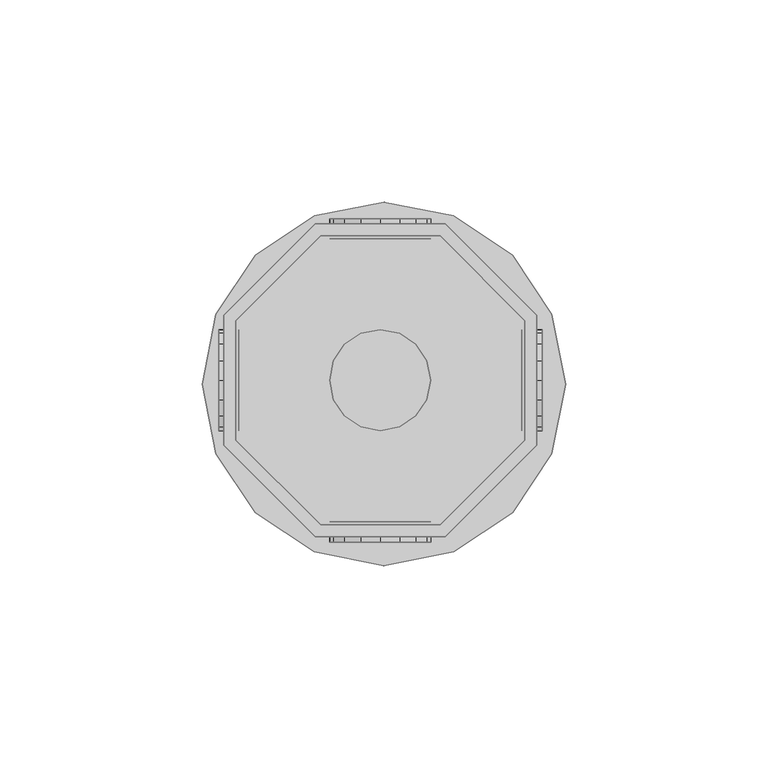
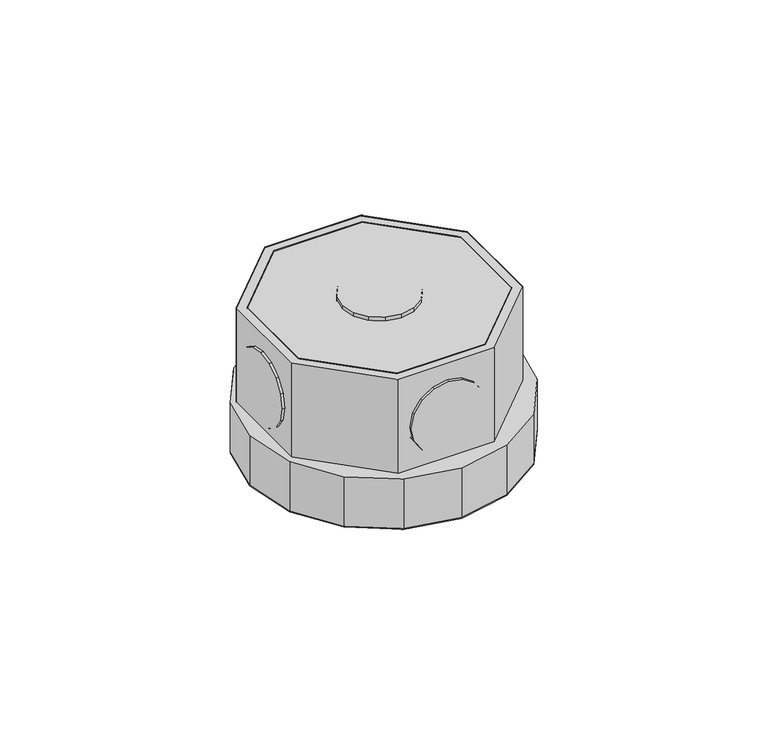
"""IFC4 building model written with IfcOpenShell, lengths in millimetres: light fixture geometry,  213798 :  213798."""

from ifc_helpers import new_model, si_unit, origin, place, context, project, spatial, triangles, source, transform, mapped, element, save


def light_fixture_bd13ce29(model_context):
    return source(origin(), model_context, "Body", "Tessellation", [
        triangles([(13460.0005096, 26822.9999634, 2924.5999741), (13430.3999908, 26822.9999634, 2975.400071), (13430.3999908, 26822.9999634, 2924.5999741), (13460.0005096, 26822.9999634, 2975.400071), (13461.2004364, 26748.4998596, 2924.5999741), (13429.1000702, 26748.4998596, 2975.400071), (13429.1000702, 26748.4998596, 2924.5999741), (13461.2004364, 26748.4998596, 2975.400071), (13409.4001099, 26801.9989197, 2975.400071), (13409.4001099, 26801.9989197, 2924.5999741), (13483.9002136, 26771.2007996, 2924.5999741), (13483.9002136, 26771.2007996, 2975.400071), (13409.4001099, 26772.4007263, 2975.400071), (13409.4001099, 26772.4007263, 2924.5999741), (13483.9002136, 26803.2988403, 2924.5999741), (13483.9002136, 26803.2988403, 2975.400071), (13430.3999908, 26751.4996765, 2975.400071), (13430.3999908, 26751.4996765, 2924.5999741), (13461.2004364, 26825.9997803, 2924.5999741), (13461.2004364, 26825.9997803, 2975.400071), (13460.0005096, 26751.4996765, 2924.5999741), (13460.0005096, 26751.4996765, 2975.400071), (13429.1000702, 26825.9997803, 2975.400071), (13429.1000702, 26825.9997803, 2924.5999741), (13480.9003967, 26772.4007263, 2924.5999741), (13480.9003967, 26772.4007263, 2975.400071), (13406.400293, 26803.2988403, 2975.400071), (13406.400293, 26803.2988403, 2924.5999741), (13406.400293, 26771.2007996, 2975.400071), (13480.9003967, 26801.9989197, 2975.400071), (13480.9003967, 26801.9989197, 2924.5999741), (13406.400293, 26771.2007996, 2924.5999741), (13409.4001099, 26772.4007263, 2972.3999634), (13430.3999908, 26751.4996765, 2972.3999634), (13460.0005096, 26751.4996765, 2972.3999634), (13480.9003967, 26772.4007263, 2972.3999634), (13480.9003967, 26801.9989197, 2972.3999634), (13460.0005096, 26822.9999634, 2972.3999634), (13430.3999908, 26822.9999634, 2972.3999634), (13409.4001099, 26801.9989197, 2972.3999634), (13406.400293, 26803.2988403, 2942.4000504), (13429.1000702, 26825.9997803, 2942.4000504), (13461.2004364, 26825.9997803, 2942.4000504), (13483.9002136, 26803.2988403, 2942.4000504), (13483.9002136, 26771.2007996, 2942.4000504), (13461.2004364, 26748.4998596, 2942.4000504), (13429.1000702, 26748.4998596, 2942.4000504), (13406.400293, 26771.2007996, 2942.4000504), (13428.8000885, 26744.8000854, 2942.4000504), (13404.5004089, 26769.1009277, 2942.4000504), (13414.1998169, 26754.4994934, 2942.4000504), (13401.0994537, 26786.2998779, 2942.4000504), (13404.5004089, 26803.6011475, 2942.4000504), (13414.1998169, 26818.2002563, 2942.4000504), (13428.8000885, 26827.8996643, 2942.4000504), (13446.1001953, 26831.2994568, 2942.4000504), (13463.3003082, 26827.8996643, 2942.4000504), (13487.5999878, 26803.6011475, 2942.4000504), (13477.9005798, 26818.2002563, 2942.4000504), (13446.1001953, 26741.3002991, 2942.4000504), (13463.3003082, 26744.8000854, 2942.4000504), (13477.9005798, 26754.4994934, 2942.4000504), (13487.5999878, 26769.1009277, 2942.4000504), (13491.0997742, 26786.2998779, 2942.4000504), (13404.5004089, 26769.1009277, 2924.5999741), (13428.8000885, 26744.8000854, 2924.5999741), (13414.1998169, 26754.4994934, 2924.5999741), (13401.0994537, 26786.2998779, 2924.5999741), (13404.5004089, 26803.6011475, 2924.5999741), (13414.1998169, 26818.2002563, 2924.5999741), (13428.8000885, 26827.8996643, 2924.5999741), (13446.1001953, 26831.2994568, 2924.5999741), (13463.3003082, 26827.8996643, 2924.5999741), (13487.5999878, 26803.6011475, 2924.5999741), (13477.9005798, 26818.2002563, 2924.5999741), (13446.1001953, 26741.3002991, 2924.5999741), (13463.3003082, 26744.8000854, 2924.5999741), (13477.9005798, 26754.4994934, 2924.5999741), (13487.5999878, 26769.1009277, 2924.5999741), (13491.0997742, 26786.2998779, 2924.5999741), (13433.5997955, 26827.199707, 2952.6000092), (13440.4005432, 26827.199707, 2945.9001274), (13436.2996307, 26827.199707, 2948.5999626), (13432.6998505, 26827.199707, 2957.4000069), (13445.2002502, 26827.199707, 2944.8998978), (13433.5997955, 26827.199707, 2962.2000046), (13449.9999573, 26827.199707, 2945.9001274), (13436.2996307, 26827.199707, 2966.2000511), (13453.9997131, 26827.199707, 2948.5999626), (13440.4005432, 26827.199707, 2968.8998863), (13456.6995483, 26827.199707, 2952.6000092), (13445.2002502, 26827.199707, 2969.900116), (13457.6994873, 26827.199707, 2957.4000069), (13449.9999573, 26827.199707, 2968.8998863), (13456.6995483, 26827.199707, 2962.2000046), (13453.9997131, 26827.199707, 2966.2000511), (13440.4005432, 26822.2000122, 2945.9001274), (13433.5997955, 26822.2000122, 2952.6000092), (13436.2996307, 26822.2000122, 2948.5999626), (13445.2002502, 26822.2000122, 2944.8998978), (13432.6998505, 26822.2000122, 2957.4000069), (13449.9999573, 26822.2000122, 2945.9001274), (13433.5997955, 26822.2000122, 2962.2000046), (13453.9997131, 26822.2000122, 2948.5999626), (13436.2996307, 26822.2000122, 2966.2000511), (13440.4005432, 26822.2000122, 2968.8998863), (13456.6995483, 26822.2000122, 2952.6000092), (13445.2002502, 26822.2000122, 2969.900116), (13457.6994873, 26822.2000122, 2957.4000069), (13449.9999573, 26822.2000122, 2968.8998863), (13456.6995483, 26822.2000122, 2962.2000046), (13453.9997131, 26822.2000122, 2966.2000511), (13433.5997955, 26752.1996338, 2952.6000092), (13440.4005432, 26752.1996338, 2945.9001274), (13436.2996307, 26752.1996338, 2948.5999626), (13432.6998505, 26752.1996338, 2957.4000069), (13445.2002502, 26752.1996338, 2944.8998978), (13433.5997955, 26752.1996338, 2962.2000046), (13449.9999573, 26752.1996338, 2945.9001274), (13436.2996307, 26752.1996338, 2966.2000511), (13453.9997131, 26752.1996338, 2948.5999626), (13440.4005432, 26752.1996338, 2968.8998863), (13456.6995483, 26752.1996338, 2952.6000092), (13445.2002502, 26752.1996338, 2969.900116), (13457.6994873, 26752.1996338, 2957.4000069), (13449.9999573, 26752.1996338, 2968.8998863), (13456.6995483, 26752.1996338, 2962.2000046), (13453.9997131, 26752.1996338, 2966.2000511), (13440.4005432, 26747.199939, 2945.9001274), (13433.5997955, 26747.199939, 2952.6000092), (13436.2996307, 26747.199939, 2948.5999626), (13445.2002502, 26747.199939, 2944.8998978), (13432.6998505, 26747.199939, 2957.4000069), (13449.9999573, 26747.199939, 2945.9001274), (13433.5997955, 26747.199939, 2962.2000046), (13453.9997131, 26747.199939, 2948.5999626), (13436.2996307, 26747.199939, 2966.2000511), (13440.4005432, 26747.199939, 2968.8998863), (13456.6995483, 26747.199939, 2952.6000092), (13445.2002502, 26747.199939, 2969.900116), (13457.6994873, 26747.199939, 2957.4000069), (13449.9999573, 26747.199939, 2968.8998863), (13456.6995483, 26747.199939, 2962.2000046), (13453.9997131, 26747.199939, 2966.2000511), (13410.200061, 26782.400116, 2945.9001274), (13410.200061, 26775.7005249, 2952.6000092), (13410.200061, 26778.4003601, 2948.5999626), (13410.200061, 26787.199823, 2944.8998978), (13410.200061, 26774.7005859, 2957.4000069), (13410.200061, 26791.99953, 2945.9001274), (13410.200061, 26775.7005249, 2962.2000046), (13410.200061, 26796.0992798, 2948.5999626), (13410.200061, 26778.4003601, 2966.2000511), (13410.200061, 26782.400116, 2968.8998863), (13410.200061, 26798.799115, 2952.6000092), (13410.200061, 26787.199823, 2969.900116), (13410.200061, 26799.6990601, 2957.4000069), (13410.200061, 26791.99953, 2968.8998863), (13410.200061, 26798.799115, 2962.2000046), (13410.200061, 26796.0992798, 2966.2000511), (13405.2003662, 26775.7005249, 2952.6000092), (13405.2003662, 26782.400116, 2945.9001274), (13405.2003662, 26778.4003601, 2948.5999626), (13405.2003662, 26774.7005859, 2957.4000069), (13405.2003662, 26787.199823, 2944.8998978), (13405.2003662, 26775.7005249, 2962.2000046), (13405.2003662, 26791.99953, 2945.9001274), (13405.2003662, 26778.4003601, 2966.2000511), (13405.2003662, 26796.0992798, 2948.5999626), (13405.2003662, 26782.400116, 2968.8998863), (13405.2003662, 26798.799115, 2952.6000092), (13405.2003662, 26787.199823, 2969.900116), (13405.2003662, 26799.6990601, 2957.4000069), (13405.2003662, 26791.99953, 2968.8998863), (13405.2003662, 26798.799115, 2962.2000046), (13405.2003662, 26796.0992798, 2966.2000511), (13485.2001343, 26782.400116, 2945.9001274), (13485.2001343, 26775.7005249, 2952.6000092), (13485.2001343, 26778.4003601, 2948.5999626), (13485.2001343, 26787.199823, 2944.8998978), (13485.2001343, 26774.7005859, 2957.4000069), (13485.2001343, 26791.99953, 2945.9001274), (13485.2001343, 26775.7005249, 2962.2000046), (13485.2001343, 26796.0992798, 2948.5999626), (13485.2001343, 26778.4003601, 2966.2000511), (13485.2001343, 26782.400116, 2968.8998863), (13485.2001343, 26798.799115, 2952.6000092), (13485.2001343, 26787.199823, 2969.900116), (13485.2001343, 26799.6990601, 2957.4000069), (13485.2001343, 26791.99953, 2968.8998863), (13485.2001343, 26798.799115, 2962.2000046), (13485.2001343, 26796.0992798, 2966.2000511), (13480.2004395, 26775.7005249, 2952.6000092), (13480.2004395, 26782.400116, 2945.9001274), (13480.2004395, 26778.4003601, 2948.5999626), (13480.2004395, 26774.7005859, 2957.4000069), (13480.2004395, 26787.199823, 2944.8998978), (13480.2004395, 26775.7005249, 2962.2000046), (13480.2004395, 26791.99953, 2945.9001274), (13480.2004395, 26778.4003601, 2966.2000511), (13480.2004395, 26796.0992798, 2948.5999626), (13480.2004395, 26782.400116, 2968.8998863), (13480.2004395, 26798.799115, 2952.6000092), (13480.2004395, 26787.199823, 2969.900116), (13480.2004395, 26799.6990601, 2957.4000069), (13480.2004395, 26791.99953, 2968.8998863), (13480.2004395, 26798.799115, 2962.2000046), (13480.2004395, 26796.0992798, 2966.2000511), (13440.4005432, 26775.7005249, 2976.9999733), (13433.5997955, 26782.400116, 2976.9999733), (13436.2996307, 26778.4003601, 2976.9999733), (13432.6998505, 26787.199823, 2976.9999733), (13445.2002502, 26774.7005859, 2976.9999733), (13433.5997955, 26791.99953, 2976.9999733), (13449.9999573, 26775.7005249, 2976.9999733), (13436.2996307, 26796.0992798, 2976.9999733), (13453.9997131, 26778.4003601, 2976.9999733), (13440.4005432, 26798.799115, 2976.9999733), (13456.6995483, 26782.400116, 2976.9999733), (13445.2002502, 26799.6990601, 2976.9999733), (13457.6994873, 26787.199823, 2976.9999733), (13449.9999573, 26798.799115, 2976.9999733), (13456.6995483, 26791.99953, 2976.9999733), (13453.9997131, 26796.0992798, 2976.9999733), (13433.5997955, 26782.400116, 2971.9999878), (13440.4005432, 26775.7005249, 2971.9999878), (13436.2996307, 26778.4003601, 2971.9999878), (13432.6998505, 26787.199823, 2971.9999878), (13445.2002502, 26774.7005859, 2971.9999878), (13433.5997955, 26791.99953, 2971.9999878), (13449.9999573, 26775.7005249, 2971.9999878), (13436.2996307, 26796.0992798, 2971.9999878), (13453.9997131, 26778.4003601, 2971.9999878), (13440.4005432, 26798.799115, 2971.9999878), (13456.6995483, 26782.400116, 2971.9999878), (13445.2002502, 26799.6990601, 2971.9999878), (13457.6994873, 26787.199823, 2971.9999878), (13449.9999573, 26798.799115, 2971.9999878), (13456.6995483, 26791.99953, 2971.9999878), (13453.9997131, 26796.0992798, 2971.9999878)], [[1, 2, 3], [2, 1, 4], [5, 6, 7], [6, 5, 8], [3, 9, 10], [9, 3, 2], [11, 8, 5], [8, 11, 12], [10, 13, 14], [13, 10, 9], [15, 12, 11], [12, 15, 16], [14, 17, 18], [17, 14, 13], [19, 16, 15], [16, 19, 20], [17, 21, 18], [21, 17, 22], [23, 19, 24], [19, 23, 20], [22, 25, 21], [25, 22, 26], [27, 24, 28], [24, 27, 23], [6, 13, 29], [29, 13, 27], [27, 13, 9], [27, 9, 23], [23, 9, 2], [23, 2, 4], [23, 4, 20], [20, 4, 30], [8, 17, 6], [6, 17, 13], [17, 8, 22], [12, 22, 8], [22, 12, 26], [30, 26, 12], [16, 30, 12], [20, 30, 16], [30, 1, 31], [1, 30, 4], [6, 32, 7], [32, 6, 29], [32, 14, 7], [28, 14, 32], [14, 28, 10], [24, 10, 28], [10, 24, 3], [1, 3, 24], [19, 1, 24], [31, 1, 19], [7, 18, 5], [14, 18, 7], [5, 18, 21], [5, 21, 11], [11, 21, 25], [11, 25, 31], [11, 31, 15], [15, 31, 19], [26, 31, 25], [31, 26, 30], [29, 28, 32], [28, 29, 27], [17, 33, 34], [33, 17, 13], [35, 17, 34], [17, 35, 22], [36, 22, 35], [22, 36, 26], [37, 26, 36], [26, 37, 30], [38, 30, 37], [30, 38, 4], [2, 38, 39], [38, 2, 4], [17, 9, 13], [9, 17, 22], [9, 22, 2], [2, 22, 26], [2, 26, 4], [4, 26, 30], [13, 40, 33], [40, 13, 9], [40, 34, 33], [35, 34, 40], [35, 40, 39], [35, 39, 36], [36, 39, 38], [36, 38, 37], [9, 39, 40], [39, 9, 2], [24, 41, 28], [41, 24, 42], [19, 42, 24], [42, 19, 43], [44, 19, 15], [19, 44, 43], [45, 15, 11], [15, 45, 44], [46, 11, 5], [11, 46, 45], [47, 5, 7], [5, 47, 46], [32, 47, 7], [47, 32, 48], [28, 48, 32], [48, 28, 41], [49, 50, 51], [48, 50, 49], [50, 48, 52], [41, 52, 48], [52, 41, 53], [53, 41, 54], [42, 54, 41], [54, 42, 55], [55, 42, 43], [55, 43, 56], [56, 43, 57], [57, 43, 44], [57, 44, 58], [57, 58, 59], [47, 49, 60], [49, 47, 48], [47, 60, 46], [61, 46, 60], [46, 61, 62], [46, 62, 45], [45, 62, 63], [44, 45, 63], [44, 63, 64], [44, 64, 58], [65, 66, 67], [66, 65, 32], [68, 32, 65], [32, 68, 28], [28, 68, 69], [70, 28, 69], [28, 70, 24], [71, 24, 70], [19, 24, 71], [19, 71, 72], [73, 19, 72], [19, 73, 15], [74, 15, 73], [74, 73, 75], [76, 66, 7], [32, 7, 66], [5, 76, 7], [76, 5, 77], [77, 5, 78], [11, 78, 5], [78, 11, 79], [79, 11, 15], [79, 15, 80], [80, 15, 74], [57, 75, 73], [75, 57, 59], [56, 73, 72], [73, 56, 57], [55, 72, 71], [72, 55, 56], [54, 71, 70], [71, 54, 55], [53, 70, 69], [70, 53, 54], [52, 69, 68], [69, 52, 53], [50, 68, 65], [68, 50, 52], [51, 65, 67], [65, 51, 50], [66, 51, 67], [51, 66, 49], [76, 49, 66], [49, 76, 60], [77, 60, 76], [60, 77, 61], [78, 61, 77], [61, 78, 62], [79, 62, 78], [62, 79, 63], [80, 63, 79], [63, 80, 64], [75, 58, 74], [58, 75, 59], [74, 64, 80], [64, 74, 58], [81, 82, 83], [82, 81, 84], [85, 82, 84], [85, 84, 86], [87, 85, 86], [87, 86, 88], [87, 88, 89], [89, 88, 90], [89, 90, 91], [91, 90, 92], [91, 92, 93], [93, 92, 94], [93, 94, 95], [95, 94, 96], [97, 98, 99], [98, 97, 100], [101, 98, 100], [101, 100, 102], [103, 101, 102], [103, 102, 104], [103, 104, 105], [105, 104, 106], [106, 104, 107], [106, 107, 108], [108, 107, 109], [108, 109, 110], [110, 109, 111], [110, 111, 112], [87, 104, 102], [104, 87, 89], [85, 102, 100], [102, 85, 87], [82, 100, 97], [100, 82, 85], [83, 97, 99], [97, 83, 82], [98, 83, 99], [83, 98, 81], [101, 81, 98], [81, 101, 84], [103, 84, 101], [84, 103, 86], [105, 86, 103], [86, 105, 88], [106, 88, 105], [88, 106, 90], [108, 90, 106], [90, 108, 92], [110, 92, 108], [92, 110, 94], [112, 94, 110], [94, 112, 96], [95, 112, 111], [112, 95, 96], [93, 111, 109], [111, 93, 95], [89, 107, 104], [107, 89, 91], [91, 109, 107], [109, 91, 93], [113, 114, 115], [114, 113, 116], [117, 114, 116], [117, 116, 118], [119, 117, 118], [119, 118, 120], [119, 120, 121], [121, 120, 122], [121, 122, 123], [123, 122, 124], [123, 124, 125], [125, 124, 126], [125, 126, 127], [127, 126, 128], [129, 130, 131], [130, 129, 132], [133, 130, 132], [133, 132, 134], [135, 133, 134], [135, 134, 136], [135, 136, 137], [137, 136, 138], [138, 136, 139], [138, 139, 140], [140, 139, 141], [140, 141, 142], [142, 141, 143], [142, 143, 144], [119, 136, 134], [136, 119, 121], [117, 134, 132], [134, 117, 119], [114, 132, 129], [132, 114, 117], [115, 129, 131], [129, 115, 114], [130, 115, 131], [115, 130, 113], [133, 113, 130], [113, 133, 116], [135, 116, 133], [116, 135, 118], [137, 118, 135], [118, 137, 120], [138, 120, 137], [120, 138, 122], [140, 122, 138], [122, 140, 124], [142, 124, 140], [124, 142, 126], [144, 126, 142], [126, 144, 128], [127, 144, 143], [144, 127, 128], [125, 143, 141], [143, 125, 127], [121, 139, 136], [139, 121, 123], [123, 141, 139], [141, 123, 125], [145, 146, 147], [146, 145, 148], [149, 146, 148], [149, 148, 150], [151, 149, 150], [151, 150, 152], [151, 152, 153], [153, 152, 154], [154, 152, 155], [154, 155, 156], [156, 155, 157], [156, 157, 158], [158, 157, 159], [158, 159, 160], [161, 162, 163], [162, 161, 164], [165, 162, 164], [165, 164, 166], [167, 165, 166], [167, 166, 168], [169, 167, 168], [169, 168, 170], [169, 170, 171], [171, 170, 172], [171, 172, 173], [173, 172, 174], [173, 174, 175], [175, 174, 176], [158, 176, 174], [176, 158, 160], [156, 174, 172], [174, 156, 158], [154, 172, 170], [172, 154, 156], [153, 170, 168], [170, 153, 154], [151, 168, 166], [168, 151, 153], [149, 166, 164], [166, 149, 151], [146, 164, 161], [164, 146, 149], [147, 161, 163], [161, 147, 146], [162, 147, 163], [147, 162, 145], [165, 145, 162], [145, 165, 148], [167, 148, 165], [148, 167, 150], [169, 150, 167], [150, 169, 152], [171, 152, 169], [152, 171, 155], [173, 155, 171], [155, 173, 157], [176, 159, 175], [159, 176, 160], [175, 157, 173], [157, 175, 159], [177, 178, 179], [178, 177, 180], [181, 178, 180], [181, 180, 182], [183, 181, 182], [183, 182, 184], [183, 184, 185], [185, 184, 186], [186, 184, 187], [186, 187, 188], [188, 187, 189], [188, 189, 190], [190, 189, 191], [190, 191, 192], [193, 194, 195], [194, 193, 196], [197, 194, 196], [197, 196, 198], [199, 197, 198], [199, 198, 200], [201, 199, 200], [201, 200, 202], [201, 202, 203], [203, 202, 204], [203, 204, 205], [205, 204, 206], [205, 206, 207], [207, 206, 208], [190, 208, 206], [208, 190, 192], [188, 206, 204], [206, 188, 190], [186, 204, 202], [204, 186, 188], [185, 202, 200], [202, 185, 186], [183, 200, 198], [200, 183, 185], [181, 198, 196], [198, 181, 183], [178, 196, 193], [196, 178, 181], [179, 193, 195], [193, 179, 178], [194, 179, 195], [179, 194, 177], [197, 177, 194], [177, 197, 180], [199, 180, 197], [180, 199, 182], [201, 182, 199], [182, 201, 184], [203, 184, 201], [184, 203, 187], [205, 187, 203], [187, 205, 189], [208, 191, 207], [191, 208, 192], [207, 189, 205], [189, 207, 191], [209, 210, 211], [212, 210, 209], [212, 209, 213], [214, 212, 213], [214, 213, 215], [216, 214, 215], [216, 215, 217], [216, 217, 218], [218, 217, 219], [218, 219, 220], [220, 219, 221], [220, 221, 222], [222, 221, 223], [222, 223, 224], [225, 226, 227], [226, 225, 228], [229, 226, 228], [229, 228, 230], [231, 229, 230], [231, 230, 232], [231, 232, 233], [233, 232, 234], [233, 234, 235], [235, 234, 236], [235, 236, 237], [237, 236, 238], [237, 238, 239], [239, 238, 240], [222, 240, 238], [240, 222, 224], [220, 238, 236], [238, 220, 222], [218, 236, 234], [236, 218, 220], [216, 234, 232], [234, 216, 218], [214, 232, 230], [232, 214, 216], [212, 230, 228], [230, 212, 214], [210, 228, 225], [228, 210, 212], [211, 225, 227], [225, 211, 210], [226, 211, 227], [211, 226, 209], [229, 209, 226], [209, 229, 213], [231, 213, 229], [213, 231, 215], [233, 215, 231], [215, 233, 217], [235, 217, 233], [217, 235, 219], [237, 219, 235], [219, 237, 221], [240, 223, 239], [223, 240, 224], [239, 221, 237], [221, 239, 223]], closed=False),
    ])


if __name__ == "__main__":
    model = new_model("IFC4")
    model_context = context("Model", 3, world=origin())
    ifc_project = project(units=[si_unit("LENGTHUNIT", "METRE", prefix="MILLI")], contexts=[model_context])
    site = spatial("IfcSite", under=ifc_project)
    building = spatial("IfcBuilding", under=site)
    placement = place(None, origin())
    light_fixture_shape = light_fixture_bd13ce29(model_context)
    element("IfcLightFixture", 1, ObjectType=" 213798 :  213798", at=placement, inside=building, context=model_context, shape_type="MappedRepresentation", body=[
        mapped(light_fixture_shape, transform((0.0, 0.0, 0.0), x_axis=(1.0, 0.0, 0.0), y_axis=(0.0, 1.0, 0.0), z_axis=(0.0, 0.0, 1.0))),
    ])
    save(model, "model.ifc")
